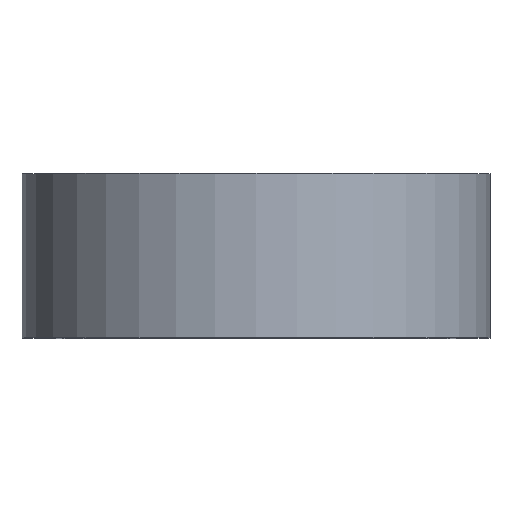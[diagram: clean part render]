
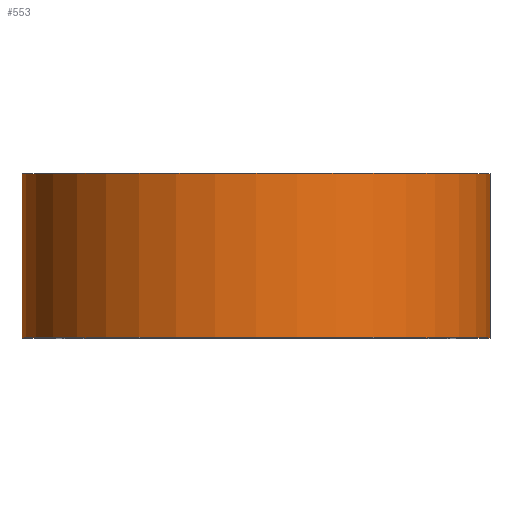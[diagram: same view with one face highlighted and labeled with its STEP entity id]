
A CAD part, top view. The second image highlights one B-rep face of the part: STEP entity #553.
In plain terms, the highlighted cylindrical face has radius 3.85 mm (diameter 7.7 mm), a partial arc.
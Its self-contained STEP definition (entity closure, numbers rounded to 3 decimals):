
#4 = ORIENTED_EDGE ( 'NONE', *, *, #283, .T. ) ;
#9 = AXIS2_PLACEMENT_3D ( 'NONE', #212, #520, #257 ) ;
#10 = LINE ( 'NONE', #402, #352 ) ;
#33 = CARTESIAN_POINT ( 'NONE',  ( 3.85, 2.7, 4.6 ) ) ;
#51 = CYLINDRICAL_SURFACE ( 'NONE', #423, 3.85 ) ;
#60 = ORIENTED_EDGE ( 'NONE', *, *, #67, .T. ) ;
#62 = ORIENTED_EDGE ( 'NONE', *, *, #123, .F. ) ;
#63 = CARTESIAN_POINT ( 'NONE',  ( 3.85, 2.7, 4.6 ) ) ;
#67 = EDGE_CURVE ( 'NONE', #401, #552, #10, .T. ) ;
#90 = VERTEX_POINT ( 'NONE', #33 ) ;
#100 = EDGE_CURVE ( 'NONE', #401, #90, #469, .T. ) ;
#110 = CARTESIAN_POINT ( 'NONE',  ( -3.85, 0., 4.6 ) ) ;
#123 = EDGE_CURVE ( 'NONE', #90, #230, #224, .T. ) ;
#143 = DIRECTION ( 'NONE',  ( 0., -1., 0. ) ) ;
#154 = CARTESIAN_POINT ( 'NONE',  ( 0., 2.7, 4.6 ) ) ;
#157 = DIRECTION ( 'NONE',  ( 0., -1., 0. ) ) ;
#179 = FACE_OUTER_BOUND ( 'NONE', #240, .T. ) ;
#192 = DIRECTION ( 'NONE',  ( 0., 0., 1. ) ) ;
#212 = CARTESIAN_POINT ( 'NONE',  ( 0., 0., 4.6 ) ) ;
#224 = LINE ( 'NONE', #63, #577 ) ;
#230 = VERTEX_POINT ( 'NONE', #276 ) ;
#240 = EDGE_LOOP ( 'NONE', ( #4, #62, #314, #60 ) ) ;
#257 = DIRECTION ( 'NONE',  ( 0., 0., 1. ) ) ;
#276 = CARTESIAN_POINT ( 'NONE',  ( 3.85, 0., 4.6 ) ) ;
#278 = DIRECTION ( 'NONE',  ( 0., 0., -1. ) ) ;
#283 = EDGE_CURVE ( 'NONE', #552, #230, #438, .T. ) ;
#314 = ORIENTED_EDGE ( 'NONE', *, *, #100, .F. ) ;
#319 = AXIS2_PLACEMENT_3D ( 'NONE', #154, #459, #192 ) ;
#352 = VECTOR ( 'NONE', #143, 1000. ) ;
#372 = CARTESIAN_POINT ( 'NONE',  ( 0., 2.7, 4.6 ) ) ;
#401 = VERTEX_POINT ( 'NONE', #478 ) ;
#402 = CARTESIAN_POINT ( 'NONE',  ( -3.85, 2.7, 4.6 ) ) ;
#416 = DIRECTION ( 'NONE',  ( 0., -1., 0. ) ) ;
#423 = AXIS2_PLACEMENT_3D ( 'NONE', #372, #157, #278 ) ;
#438 = CIRCLE ( 'NONE', #9, 3.85 ) ;
#459 = DIRECTION ( 'NONE',  ( 0., 1., 0. ) ) ;
#469 = CIRCLE ( 'NONE', #319, 3.85 ) ;
#478 = CARTESIAN_POINT ( 'NONE',  ( -3.85, 2.7, 4.6 ) ) ;
#520 = DIRECTION ( 'NONE',  ( 0., 1., 0. ) ) ;
#552 = VERTEX_POINT ( 'NONE', #110 ) ;
#553 = ADVANCED_FACE ( 'NONE', ( #179 ), #51, .T. ) ;
#577 = VECTOR ( 'NONE', #416, 1000. ) ;
